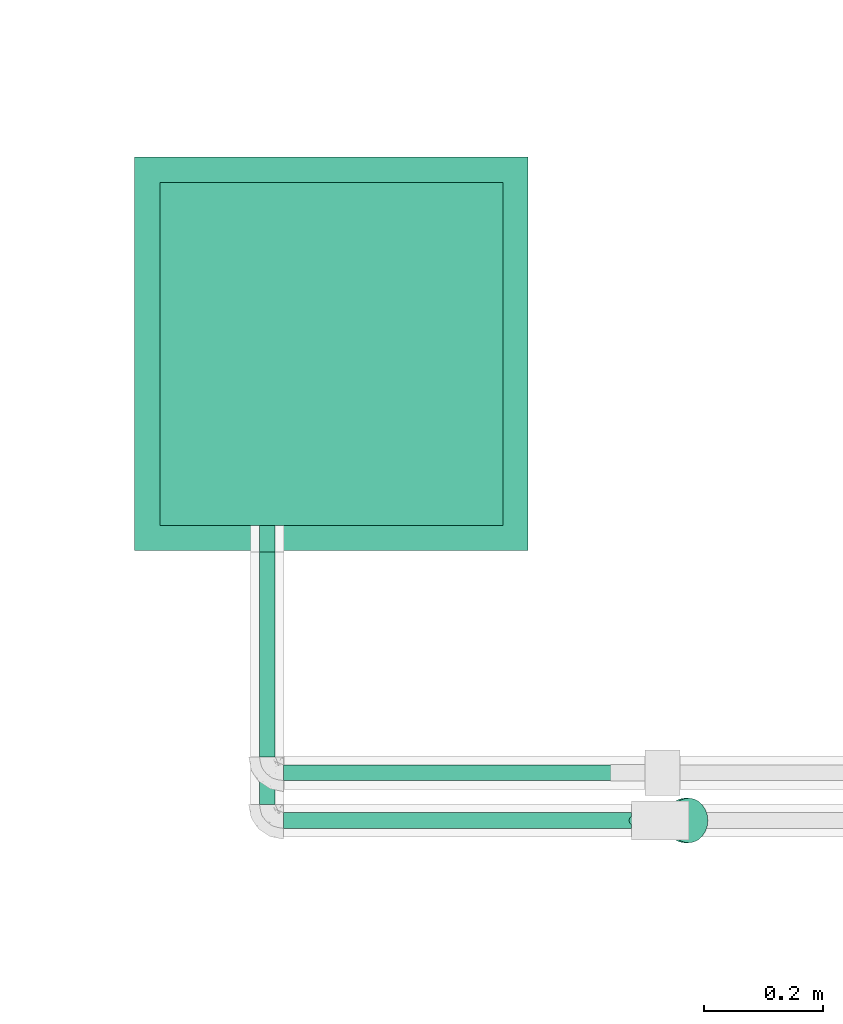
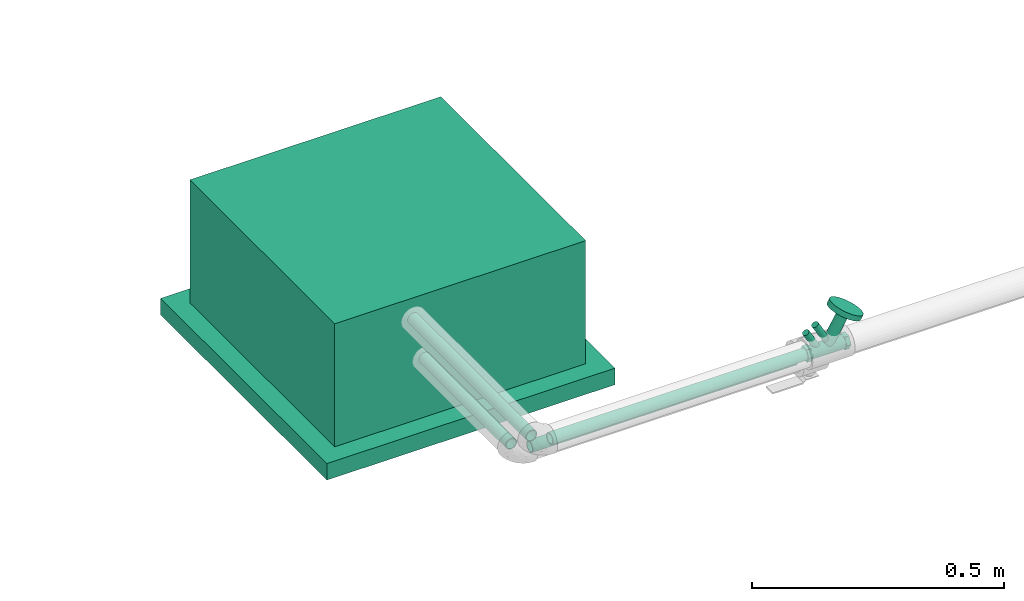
# One storey, part 52 of 108: 4 flow segments, 1 energy conversion device, 1 flow controller.
"""IFC2X3 building model written with IfcOpenShell, lengths in millimetres."""

import ifcopenshell
import ifcopenshell.guid

model = None  # the IFC model being written
_history = None  # IfcOwnerHistory: only IFC2X3 demands one
_inside = {}  # id of a spatial element -> (the spatial element, [elements in it])
_under = {}  # id of a project, library or spatial element -> (it, [spatial elements below it])
_declared = {}  # id of a project -> (the project, [libraries it declares])
_typed = {}  # id of a type object -> (the type object, [elements of that type])
_made_of = {}  # id of a material, layer set ... -> (it, [elements and type objects made of it])


def new_model(schema):
    """Start an empty IFC model of exactly this schema.

    Asked for "IFC4X3", IfcOpenShell would pick the latest addendum, in which some entities
    have other attributes; the version numbers below select the first issue.
    IFC2X3 requires an IfcOwnerHistory on every rooted entity: one is made here for all.
    """
    global model, _history
    if schema == "IFC4X3":
        model = ifcopenshell.file(schema_version=(4, 3, 0, 0))
    else:
        model = ifcopenshell.file(schema=schema)
    _inside.clear()
    _under.clear()
    _declared.clear()
    _typed.clear()
    _made_of.clear()
    _history = None
    if model.schema == "IFC2X3":
        org = make("IfcOrganization", Name="unknown")
        user = make(
            "IfcPersonAndOrganization",
            ThePerson=make("IfcPerson", FamilyName="unknown"),
            TheOrganization=org,
        )
        app = make(
            "IfcApplication",
            ApplicationDeveloper=org,
            Version="unknown",
            ApplicationFullName="unknown",
            ApplicationIdentifier="unknown",
        )
        _history = make(
            "IfcOwnerHistory",
            OwningUser=user,
            OwningApplication=app,
            ChangeAction="ADDED",
            CreationDate=0,
        )
    return model


def make(cls, **values):
    """One entity of the class cls with the attributes given. An attribute that is None is left unset."""
    return model.create_entity(
        cls, **{name: value for name, value in values.items() if value is not None}
    )


def entity(cls, *values):
    """Any entity or typed value of the class cls, its attributes in the order of the schema. None: left unset."""
    e = model.create_entity(cls)
    for i, value in enumerate(values):
        if value is not None:
            e[i] = value
    return e


def rooted(cls, **values):
    """An entity with a GlobalId (a new one), such as an element, a storey or a relation."""
    return make(cls, GlobalId=ifcopenshell.guid.new(), OwnerHistory=_history, **values)


def si_unit(unit_type, name, prefix=None):
    """IfcSIUnit, for example si_unit("LENGTHUNIT", "METRE", prefix="MILLI")."""
    return make("IfcSIUnit", UnitType=unit_type, Prefix=prefix, Name=name)


def converted_unit(unit_type, name, factor, base, dimensions=None, offset=None):
    """IfcConversionBasedUnit, such as the inch: factor (a typed value) times the base unit."""
    return make(
        "IfcConversionBasedUnit"
        if offset is None
        else "IfcConversionBasedUnitWithOffset",
        ConversionOffset=offset,
        Dimensions=None
        if dimensions is None
        else entity("IfcDimensionalExponents", *dimensions),
        UnitType=unit_type,
        Name=name,
        ConversionFactor=make(
            "IfcMeasureWithUnit", ValueComponent=factor, UnitComponent=base
        ),
    )


def derived_unit(unit_type, elements):
    """IfcDerivedUnit: a product of units, each with its exponent."""
    return make(
        "IfcDerivedUnit",
        Elements=[
            make("IfcDerivedUnitElement", Unit=unit, Exponent=power)
            for unit, power in elements
        ],
        UnitType=unit_type,
    )


def assignment(units):
    """IfcUnitAssignment: the units of a project."""
    return None if units is None else make("IfcUnitAssignment", Units=units)


def point(xyz):
    """IfcCartesianPoint."""
    return None if xyz is None else make("IfcCartesianPoint", Coordinates=xyz)


def direction(xyz):
    """IfcDirection."""
    return None if xyz is None else make("IfcDirection", DirectionRatios=xyz)


def frame(location, z_axis=None, x_axis=None):
    """IfcAxis2Placement3D, a coordinate frame: its origin and axes. An axis left out is left unset."""
    return make(
        "IfcAxis2Placement3D",
        Location=point(location),
        Axis=direction(z_axis),
        RefDirection=direction(x_axis),
    )


def frame_2d(location, x_axis=None):
    """IfcAxis2Placement2D, a coordinate frame in the plane: its origin and x axis."""
    return make(
        "IfcAxis2Placement2D", Location=point(location), RefDirection=direction(x_axis)
    )


def origin_with_axes():
    """The frame at (0, 0, 0) with the z axis (0, 0, 1) and the x axis (1, 0, 0) written out."""
    return frame((0.0, 0.0, 0.0), z_axis=(0.0, 0.0, 1.0), x_axis=(1.0, 0.0, 0.0))


def origin_2d_with_axis():
    """The frame at (0, 0) in the plane with the x axis (1, 0) written out."""
    return frame_2d((0.0, 0.0), x_axis=(1.0, 0.0))


def place(relative_to, where):
    """IfcLocalPlacement: puts the frame where relative to a parent placement (None: the world)."""
    return make(
        "IfcLocalPlacement", PlacementRelTo=relative_to, RelativePlacement=where
    )


def context(
    kind, dimensions, precision=None, world=None, true_north=None, identifier=None
):
    """IfcGeometricRepresentationContext, for example the 3D "Model" context."""
    return make(
        "IfcGeometricRepresentationContext",
        ContextIdentifier=identifier,
        ContextType=kind,
        CoordinateSpaceDimension=dimensions,
        Precision=precision,
        WorldCoordinateSystem=world,
        TrueNorth=true_north,
    )


def subcontext(parent, identifier, kind, view, scale=None):
    """IfcGeometricRepresentationSubContext, for example "Body" below "Model"."""
    return make(
        "IfcGeometricRepresentationSubContext",
        ContextIdentifier=identifier,
        ContextType=kind,
        ParentContext=parent,
        TargetScale=scale,
        TargetView=view,
    )


def project(units=None, contexts=None):
    """IfcProject with its units and contexts."""
    return rooted(
        "IfcProject",
        Name="project",
        RepresentationContexts=contexts,
        UnitsInContext=assignment(units),
    )


def spatial(cls, under=None, at=None, **own):
    """A site, building, storey or space (cls), placed at a placement, below another one or the project."""
    s = rooted(cls, ObjectPlacement=at, **own)
    if under is not None:
        _under.setdefault(under.id(), (under, []))[1].append(s)
    return s


def profile(cls, at=None, kind="AREA", **sizes):
    """A parametric profile (cls). Its sizes go by their IFC names, for example OverallWidth=200.0."""
    return make(cls, ProfileType=kind, Position=at, **sizes)


def hollow_circle(**sizes):
    """IfcCircleHollowProfileDef."""
    return profile("IfcCircleHollowProfileDef", **sizes)


def extrude(swept, where, along, depth):
    """IfcExtrudedAreaSolid: the profile swept, set in the frame where, extruded along a direction by depth."""
    return make(
        "IfcExtrudedAreaSolid",
        SweptArea=swept,
        Position=where,
        ExtrudedDirection=direction(along),
        Depth=depth,
    )


def faces_of(points, faces, orient=None, outer=None):
    """IfcFace entities. A face is a list of loops; a loop is a list of indices into points, from 0.

    orient and outer hold one flag for each loop. By default every Orientation is true, the
    first loop of a face is its IfcFaceOuterBound and the others are IfcFaceBound.
    """
    made = []
    for i, loops in enumerate(faces):
        bounds = []
        for j, loop in enumerate(loops):
            is_outer = j == 0 if outer is None else outer[i][j]
            bounds.append(
                make(
                    "IfcFaceOuterBound" if is_outer else "IfcFaceBound",
                    Bound=make("IfcPolyLoop", Polygon=[points[k] for k in loop]),
                    Orientation=True if orient is None else orient[i][j],
                )
            )
        made.append(make("IfcFace", Bounds=bounds))
    return made


def open_shell(faces, orient=None, outer=None):
    """The faces of one IfcOpenShell. surface_model builds it on its shared points."""
    return ("IfcOpenShell", faces, orient, outer)


def surface_model(cls, points, shells):
    """IfcFaceBasedSurfaceModel or IfcShellBasedSurfaceModel (cls): surfaces that need not close."""
    shared = [point(p) for p in points]
    made = [make(c, CfsFaces=faces_of(shared, fs, o, b)) for c, fs, o, b in shells]
    if cls == "IfcFaceBasedSurfaceModel":
        return make(cls, FbsmFaces=made)
    return make(cls, SbsmBoundary=made)


def shape(context_of_items, identifier, shape_type, items):
    """IfcShapeRepresentation: the items that make up one representation, for example the "Body"."""
    return make(
        "IfcShapeRepresentation",
        ContextOfItems=context_of_items,
        RepresentationIdentifier=identifier,
        RepresentationType=shape_type,
        Items=items,
    )


def source(mapping_origin, context_of_items, identifier, shape_type, items):
    """IfcRepresentationMap: a shape defined once, which mapped items show again and again."""
    return make(
        "IfcRepresentationMap",
        MappingOrigin=mapping_origin,
        MappedRepresentation=shape(context_of_items, identifier, shape_type, items),
    )


def transform(
    local_origin,
    x_axis=None,
    y_axis=None,
    z_axis=None,
    scale=None,
    scale2=None,
    scale3=None,
    uniform=True,
):
    """IfcCartesianTransformationOperator3D, or its non-uniform kind. x_axis, y_axis, z_axis: its Axis1, 2, 3."""
    if uniform:
        return make(
            "IfcCartesianTransformationOperator3D",
            Axis1=direction(x_axis),
            Axis2=direction(y_axis),
            LocalOrigin=point(local_origin),
            Scale=scale,
            Axis3=direction(z_axis),
        )
    return make(
        "IfcCartesianTransformationOperator3DnonUniform",
        Axis1=direction(x_axis),
        Axis2=direction(y_axis),
        LocalOrigin=point(local_origin),
        Scale=scale,
        Axis3=direction(z_axis),
        Scale2=scale2,
        Scale3=scale3,
    )


def mapped(mapping_source, mapping_target):
    """IfcMappedItem: shows the shape of a source again, moved by a transform."""
    return make(
        "IfcMappedItem", MappingSource=mapping_source, MappingTarget=mapping_target
    )


def made_of(thing, what):
    """Note that an element or type object is made of a material, layer set ...; save() writes the relation."""
    if what is not None:
        _made_of.setdefault(what.id(), (what, []))[1].append(thing)
    return thing


def type_object(cls, material=None, **own):
    """A type object (cls), such as IfcWallType, which elements share."""
    return made_of(rooted(cls, **own), material)


def element(
    cls,
    number,
    at=None,
    inside=None,
    cuts=None,
    type_object=None,
    material=None,
    context=None,
    identifier="Body",
    shape_type=None,
    held_by="IfcProductDefinitionShape",
    body=None,
    shapes=None,
    **own,
):
    """One element of the class cls, such as IfcWall. Its Tag is "e" and its number.

    at: its placement. inside: the storey or other place that contains it. cuts: it is an
    opening in that element (IfcRelVoidsElement). A single representation is given by context,
    identifier, shape_type and body (its items); several are given by shapes. held_by: the class
    of the entity that holds the representations. save() writes the other relations.
    """
    e = rooted(cls, Tag="e%d" % number, ObjectPlacement=at, **own)
    if body is not None:
        shapes = [shape(context, identifier, shape_type, body)]
    if shapes is not None:
        e.Representation = make(held_by, Representations=shapes)
    if inside is not None:
        _inside.setdefault(inside.id(), (inside, []))[1].append(e)
    if cuts is not None:
        rooted(
            "IfcRelVoidsElement", RelatingBuildingElement=cuts, RelatedOpeningElement=e
        )
    if type_object is not None:
        _typed.setdefault(type_object.id(), (type_object, []))[1].append(e)
    return made_of(e, material)


def aggregate(whole, parts):
    """IfcRelAggregates: a whole, such as a stair, and the parts it consists of."""
    return rooted("IfcRelAggregates", RelatingObject=whole, RelatedObjects=parts)


def save(model, path):
    """Write the relations noted so far, then the file.

    IfcRelAggregates (storeys below a building ...), IfcRelContainedInSpatialStructure (elements
    in a storey), IfcRelDefinesByType, IfcRelAssociatesMaterial and IfcRelDeclares: one each for
    every whole, place, type object, material and project.
    """
    for whole, parts in _under.values():
        aggregate(whole, parts)
    for where, things in _inside.values():
        rooted(
            "IfcRelContainedInSpatialStructure",
            RelatedElements=things,
            RelatingStructure=where,
        )
    for kind, things in _typed.values():
        rooted("IfcRelDefinesByType", RelatedObjects=things, RelatingType=kind)
    for what, things in _made_of.values():
        rooted("IfcRelAssociatesMaterial", RelatedObjects=things, RelatingMaterial=what)
    for by, libraries in _declared.values():
        rooted("IfcRelDeclares", RelatingContext=by, RelatedDefinitions=libraries)
    model.write(path)


model = new_model("IFC2X3")

# Units and contexts
model_context = context("Model", 3, precision=0.01, world=frame((0.0, 4.29681676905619e-09, 0.0)), true_north=direction((4.01073788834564e-13, 1.0)))
plan_context = context("Plan", 3, precision=0.01, world=frame((0.0, 4.29681676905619e-09, 0.0)), true_north=direction((4.01073788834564e-13, 1.0)))
body_context = subcontext(model_context, "Body", "Model", "MODEL_VIEW")
ifc_project = project(units=[converted_unit("PLANEANGLEUNIT", "DEGREE", entity("IfcPositiveLengthMeasure", 0.0174532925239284), si_unit("PLANEANGLEUNIT", "RADIAN"), dimensions=[0, 0, 0, 0, 0, 0, 0]), si_unit("AREAUNIT", "SQUARE_METRE"), si_unit("LENGTHUNIT", "METRE", prefix="MILLI"), si_unit("MASSUNIT", "GRAM", prefix="KILO"), si_unit("POWERUNIT", "WATT"), si_unit("PRESSUREUNIT", "PASCAL", prefix="KILO"), si_unit("FORCEUNIT", "NEWTON", prefix="KILO"), si_unit("ELECTRICVOLTAGEUNIT", "VOLT"), si_unit("ELECTRICCURRENTUNIT", "AMPERE"), si_unit("THERMODYNAMICTEMPERATUREUNIT", "DEGREE_CELSIUS"), si_unit("TIMEUNIT", "SECOND"), si_unit("VOLUMEUNIT", "CUBIC_METRE"), derived_unit("LINEARVELOCITYUNIT", [(si_unit("LENGTHUNIT", "METRE"), 1), (si_unit("TIMEUNIT", "SECOND"), -1)]), derived_unit("VOLUMETRICFLOWRATEUNIT", [(si_unit("VOLUMEUNIT", "CUBIC_METRE"), 1), (si_unit("TIMEUNIT", "SECOND"), -1)]), derived_unit("THERMALTRANSMITTANCEUNIT", [(si_unit("POWERUNIT", "WATT"), 1), (si_unit("THERMODYNAMICTEMPERATUREUNIT", "KELVIN"), -1), (si_unit("AREAUNIT", "SQUARE_METRE"), -1)]), derived_unit("SOUNDPRESSUREUNIT", [(si_unit("PRESSUREUNIT", "PASCAL"), 1)])], contexts=[model_context, plan_context])

# Site, building, storey
site_placement = place(None, frame((0.0, -4.29681676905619e-09, 0.0), z_axis=(0.0, 0.0, 1.0), x_axis=(1.0, 0.0, 0.0)))
site = spatial("IfcSite", under=ifc_project, at=site_placement, CompositionType="ELEMENT")
building_placement = place(site_placement, frame((0.0, 4.29681676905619e-09, 0.0), z_axis=(0.0, 0.0, 1.0), x_axis=(1.0, 0.0, 0.0)))
building = spatial("IfcBuilding", under=site, at=building_placement, Name="mc-building", CompositionType="ELEMENT")
storey_placement = place(building_placement, frame((0.0, 0.0, 210200.0), z_axis=(0.0, 0.0, 1.0), x_axis=(1.0, 0.0, 0.0)))
storey = spatial("IfcBuildingStorey", under=building, at=storey_placement, Name="Nivå F - 0,7 m", CompositionType="ELEMENT", Elevation=210200.0)

# Energy conversion device
coil_type = type_object("IfcCoilType", Name="GCS2.UWW.K01", PredefinedType="WATERHEATINGCOIL")
shared_shape_1 = source(origin_with_axes(), body_context, "Body", "SurfaceModel", [
    surface_model("IfcShellBasedSurfaceModel", [(-329.99999, 329.99999, 0.0), (-329.99999, -329.99999, 0.0), (329.99999, -329.99999, 0.0), (329.99999, 329.99999, 0.0), (329.99999, 329.99999, -40.0), (329.99999, -329.99999, -40.0), (-329.99999, -329.99999, -40.0), (-329.99999, 329.99999, -40.0), (-287.5, 287.5, 25.0), (-287.5, -287.5, 25.0), (287.5, -287.5, 25.0), (287.5, 287.5, 25.0), (287.5, 287.5, 0.0), (287.5, -287.5, 0.0), (-287.5, -287.5, 0.0), (-287.5, 287.5, 0.0), (-287.5, 287.5, 298.0), (-287.5, -287.5, 298.0), (287.5, -287.5, 298.0), (287.5, 287.5, 298.0)], [open_shell([[[0, 1, 2]], [[2, 3, 0]], [[4, 5, 6]], [[6, 7, 4]], [[2, 1, 6]], [[6, 5, 2]], [[3, 2, 5]], [[5, 4, 3]], [[0, 3, 4]], [[4, 7, 0]], [[1, 0, 7]], [[7, 6, 1]], [[8, 9, 10]], [[10, 11, 8]], [[12, 13, 14]], [[14, 15, 12]], [[10, 9, 14]], [[14, 13, 10]], [[11, 10, 13]], [[13, 12, 11]], [[8, 11, 12]], [[12, 15, 8]], [[9, 8, 15]], [[15, 14, 9]], [[16, 17, 18]], [[18, 19, 16]], [[11, 10, 9]], [[9, 8, 11]], [[18, 17, 10]], [[9, 10, 17]], [[19, 18, 11]], [[10, 11, 18]], [[16, 19, 8]], [[11, 8, 19]], [[17, 16, 9]], [[8, 9, 16]]])]),
])
energy_conversion_device_placement = place(storey_placement, frame((337139.68344, 464685.97358, 2700.0), z_axis=(0.0, 0.0, 1.0), x_axis=(0.0, 1.0, 0.0)))
element("IfcEnergyConversionDevice", 1, at=energy_conversion_device_placement, inside=storey, type_object=coil_type, Name="GCS2.UWW.K01", context=body_context, shape_type="MappedRepresentation", body=[
    mapped(shared_shape_1, transform((0.0, 0.0, 0.0), scale=1.0)),
])

# Flow controller
valve_type = type_object("IfcValveType", Name="STAD/F-20", PredefinedType="NOTDEFINED")
shared_shape_2 = source(origin_with_axes(), body_context, "Body", "SurfaceModel", [
    surface_model("IfcShellBasedSurfaceModel", [(5.41266, -10.82532, 3.125), (7.65466, -8.83883, 4.41942), (5.32606, -10.65211, 3.075), (2.75697, -11.88089, 1.59174), (0.0, -12.3, 0.0), (2.8018, -12.07407, 1.61762), (0.0, -12.5, 0.0), (7.53218, -8.69741, 4.34871), (10.45645, -3.23524, 6.03704), (10.65211, 0.0, 6.15), (10.28915, -3.18347, 5.94044), (10.82532, 0.0, 6.25), (9.375, -6.25, 5.41266), (9.225, -6.15, 5.32606), (-2.75697, -11.88089, -1.59174), (-2.8018, -12.07407, -1.61762), (-5.32606, -10.65211, -3.075), (-7.65466, -8.83883, -4.41942), (-5.41266, -10.82532, -3.125), (-7.53218, -8.69741, -4.34871), (-9.225, -6.15, -5.32606), (-9.375, -6.25, -5.41266), (-10.28915, -3.18347, -5.94044), (-10.45645, -3.23524, -6.03704), (-10.65211, 0.0, -6.15), (-10.82532, 0.0, -6.25), (10.45645, 3.23524, 6.03704), (10.28915, 3.18347, 5.94044), (9.225, 6.15, 5.32606), (9.375, 6.25, 5.41266), (7.53218, 8.69741, 4.34871), (7.65466, 8.83883, 4.41942), (5.41266, 10.82532, 3.125), (5.32606, 10.65211, 3.075), (2.75697, 11.88089, 1.59174), (2.8018, 12.07407, 1.61762), (0.0, 12.3, 0.0), (0.0, 12.5, 0.0), (-9.375, 6.25, -5.41266), (-9.225, 6.15, -5.32606), (-7.65466, 8.83883, -4.41942), (-7.53218, 8.69741, -4.34871), (-10.45645, 3.23524, -6.03704), (-10.28915, 3.18347, -5.94044), (-2.75697, 11.88089, -1.59174), (-2.8018, 12.07407, -1.61762), (-5.32606, 10.65211, -3.075), (-5.41266, 10.82532, -3.125), (78.86936, 9.70571, -64.16131), (70.46396, 26.5165, -69.01416), (75.625, 18.75, -66.03444), (24.53603, 26.5165, -95.53067), (16.13063, 9.70571, -100.38353), (19.37499, 18.75, -98.51039), (31.26202, 32.47595, -91.64741), (63.73797, -32.47595, -72.89742), (75.625, -18.75, -66.03444), (70.46396, -26.5165, -69.01416), (55.90539, -36.22222, -77.41956), (47.49999, -37.5, -82.27241), (69.625, -18.75, -55.64213), (57.73797, -32.47595, -62.50511), (64.46396, -26.5165, -58.62186), (10.13063, -9.70571, -89.99122), (10.13063, 9.70571, -89.99122), (9.02404, 0.0, -90.63011), (72.86936, -9.70571, -53.769), (64.46396, 26.5165, -58.62186), (72.86936, 9.70571, -53.769), (69.625, 18.75, -55.64213), (57.73797, 32.47595, -62.50511), (49.90539, 36.22222, -67.02725), (25.26202, 32.47595, -81.25511), (41.5, 37.5, -71.88011), (33.0946, 36.22222, -76.73297), (13.375, 18.75, -88.11809), (18.53603, 26.5165, -85.13836), (39.0946, 36.22222, -87.12527), (15.02404, 0.0, -101.02241), (47.49999, 37.5, -82.27241), (55.90539, 36.22222, -77.41956), (63.73797, 32.47595, -72.89742), (79.97595, 0.0, -63.52242), (73.97595, 0.0, -53.13011), (78.86936, -9.70571, -64.16131), (49.90539, -36.22222, -67.02725), (41.5, -37.5, -71.88011), (33.0946, -36.22222, -76.73297), (39.0946, -36.22222, -87.12527), (25.26202, -32.47595, -81.25511), (31.26202, -32.47595, -91.64741), (19.37499, -18.75, -98.51039), (18.53603, -26.5165, -85.13836), (13.375, -18.75, -88.11809), (24.53603, -26.5165, -95.53067), (16.13063, -9.70571, -100.38353), (46.91266, 10.82532, -68.75511), (49.15465, 8.83883, -67.46069), (46.82605, 10.65211, -68.80511), (44.25696, 11.88089, -70.28837), (41.5, 12.3, -71.88011), (44.30179, 12.07407, -70.26249), (41.5, 12.5, -71.88011), (49.03218, 8.69741, -67.5314), (51.95645, 3.23524, -65.84307), (52.15211, 0.0, -65.73011), (51.78915, 3.18347, -65.93967), (52.32531, 0.0, -65.63011), (50.875, 6.25, -66.46745), (50.725, 6.15, -66.55405), (38.74302, 11.88089, -73.47185), (38.6982, 12.07407, -73.49773), (36.17394, 10.65211, -74.95511), (33.84534, 8.83883, -76.29953), (36.08734, 10.82532, -75.00511), (33.96781, 8.69741, -76.22881), (32.275, 6.15, -77.20617), (32.125, 6.25, -77.29277), (31.21084, 3.18347, -77.82055), (31.04354, 3.23524, -77.91715), (30.84788, 0.0, -78.03011), (30.67468, 0.0, -78.13011), (51.95645, -3.23524, -65.84307), (51.78915, -3.18347, -65.93967), (50.725, -6.15, -66.55405), (50.875, -6.25, -66.46745), (49.03218, -8.69741, -67.5314), (49.15465, -8.83883, -67.46069), (46.91266, -10.82532, -68.75511), (46.82605, -10.65211, -68.80511), (44.25696, -11.88089, -70.28837), (44.30179, -12.07407, -70.26249), (41.5, -12.3, -71.88011), (41.5, -12.5, -71.88011), (32.125, -6.25, -77.29277), (32.275, -6.15, -77.20617), (33.84534, -8.83883, -76.29953), (33.96781, -8.69741, -76.22881), (31.04354, -3.23524, -77.91715), (31.21084, -3.18347, -77.82055), (38.74302, -11.88089, -73.47185), (38.6982, -12.07407, -73.49773), (36.17394, -10.65211, -74.95511), (36.08734, -10.82532, -75.00511), (48.5, 8.91, -15.43257), (48.5, 17.82, 0.0), (48.5, -8.91, -15.43257), (48.5, 8.91, 15.43257), (48.5, -8.91, 15.43257), (48.5, -17.82, 0.0), (38.5, -17.82, 0.0), (38.5, -8.91, 15.43257), (38.5, -8.91, -15.43257), (38.5, 8.91, 15.43257), (38.5, 17.82, 0.0), (38.5, 8.91, -15.43257), (-48.5, -8.91, -15.43257), (-48.5, -17.82, 0.0), (-48.5, 8.91, -15.43257), (-48.5, -8.91, 15.43257), (-48.5, 8.91, 15.43257), (-48.5, 17.82, 0.0), (-38.5, 17.82, 0.0), (-38.5, 8.91, 15.43257), (-38.5, 8.91, -15.43257), (-38.5, -8.91, 15.43257), (-38.5, -17.82, 0.0), (-38.5, -8.91, -15.43257), (38.5, 7.425, -12.86048), (38.5, -7.425, -12.86048), (38.5, 3.84346, -14.344), (38.5, 10.50054, -10.50054), (38.5, -14.344, 3.84346), (38.5, -3.84346, 14.344), (38.5, 12.86048, -7.425), (38.5, 14.344, -3.84346), (38.5, -10.50054, 10.50054), (38.5, 0.0, -14.85), (38.5, -3.84346, -14.344), (38.5, -10.50054, -10.50054), (38.5, -14.344, -3.84346), (38.5, -12.86048, -7.425), (38.5, 14.85, 0.0), (38.5, 14.344, 3.84346), (38.5, 12.86048, 7.425), (38.5, 10.50054, 10.50054), (38.5, 7.425, 12.86048), (38.5, 3.84346, 14.344), (38.5, 0.0, 14.85), (38.5, -12.86048, 7.425), (38.5, -14.85, 0.0), (38.5, -7.425, 12.86048), (-38.5, 0.0, 14.85), (-38.5, 3.84346, 14.344), (-38.5, 7.425, 12.86048), (-38.5, -3.84346, 14.344), (-38.5, 10.50054, 10.50054), (-38.5, 12.86048, 7.425), (-38.5, 14.344, 3.84346), (-38.5, -10.50054, 10.50054), (-38.5, -7.425, 12.86048), (-38.5, -14.344, 3.84346), (-38.5, -12.86048, 7.425), (-38.5, -14.344, -3.84346), (-38.5, -14.85, 0.0), (-38.5, 10.50054, -10.50054), (-38.5, 14.344, -3.84346), (-38.5, 12.86048, -7.425), (-38.5, 7.425, -12.86048), (-38.5, -7.425, -12.86048), (-38.5, 0.0, -14.85), (-38.5, 3.84346, -14.344), (-38.5, -10.50054, -10.50054), (-38.5, -12.86048, -7.425), (-38.5, -3.84346, -14.344), (-38.5, 14.85, 0.0), (-21.28648, 6.49519, -65.18525), (-29.12686, 5.3033, -60.6586), (-22.85299, 7.24444, -64.28082), (-18.90907, 3.75, -66.55784), (-19.94128, 5.3033, -65.9619), (-18.2602, 1.94114, -66.93247), (-18.03888, 0.0, -67.06025), (-31.02926, 0.0, -59.56025), (-26.21515, 7.24444, -62.33968), (-27.78167, 6.49519, -61.43524), (-24.53407, 7.5, -63.31025), (-30.15907, 3.75, -60.06265), (-30.80794, 1.94114, -59.68803), (-18.90907, -3.75, -66.55784), (-21.28648, -6.49519, -65.18525), (-19.94128, -5.3033, -65.9619), (-22.85299, -7.24444, -64.28082), (-24.53407, -7.5, -63.31025), (-29.12686, -5.3033, -60.6586), (-30.15907, -3.75, -60.06265), (-30.80794, -1.94114, -59.68803), (-26.21515, -7.24444, -62.33968), (-27.78167, -6.49519, -61.43524), (-18.2602, -1.94114, -66.93247), (11.647, -7.24444, -4.52506), (5.37313, -5.3033, -0.90284), (9.96592, -7.5, -3.55449), (14.55872, -5.3033, -6.20614), (13.21352, -6.49519, -5.42949), (16.2398, 1.94114, -7.17671), (15.59092, -3.75, -6.80209), (16.46111, 0.0, -7.30449), (8.28485, -7.24444, -2.58392), (6.71833, -6.49519, -1.67949), (3.69205, -1.94114, 0.06773), (4.34092, -3.75, -0.3069), (3.69205, 1.94114, 0.06773), (3.47073, 0.0, 0.19551), (16.2398, -1.94114, -7.17671), (11.647, 7.24444, -4.52506), (15.59092, 3.75, -6.80209), (14.55872, 5.3033, -6.20614), (13.21352, 6.49519, -5.42949), (6.71833, 6.49519, -1.67949), (5.37313, 5.3033, -0.90284), (4.34092, 3.75, -0.3069), (9.96592, 7.5, -3.55449), (8.28485, 7.24444, -2.58392), (-45.53519, 7.5, -51.18525), (-43.85411, 7.24444, -52.15582), (-42.28759, 6.49519, -53.06025), (-40.9424, 5.3033, -53.8369), (-51.80906, 1.94114, -47.56303), (-39.26132, 1.94114, -54.80747), (-39.91019, 3.75, -54.43284), (-51.80906, -1.94114, -47.56303), (-47.21627, 7.24444, -50.21468), (-50.12798, 5.3033, -48.5336), (-48.78278, 6.49519, -49.31025), (-51.16019, 3.75, -47.93765), (-39.04, 0.0, -54.93525), (-39.26132, -1.94114, -54.80747), (-39.91019, -3.75, -54.43284), (-40.9424, -5.3033, -53.8369), (-42.28759, -6.49519, -53.06025), (-43.85411, -7.24444, -52.15582), (-45.53519, -7.5, -51.18525), (-50.12798, -5.3033, -48.5336), (-51.16019, -3.75, -47.93765), (-52.03038, 0.0, -47.43525), (-47.21627, -7.24444, -50.21468), (-48.78278, -6.49519, -49.31025), (-19.35411, -7.24444, -9.72057), (-25.62798, -5.3033, -6.09835), (-21.03519, -7.5, -8.75), (-16.4424, -5.3033, -11.40165), (-17.7876, -6.49519, -10.625), (-15.41019, -3.75, -11.9976), (-14.76132, -1.94114, -12.37222), (-24.28279, -6.49519, -6.875), (-22.71627, -7.24444, -7.77943), (-26.66019, -3.75, -5.50241), (-27.30906, -1.94114, -5.12778), (-27.30906, 1.94114, -5.12778), (-27.53038, 0.0, -5.0), (-14.76132, 1.94114, -12.37222), (-19.35411, 7.24444, -9.72057), (-16.4424, 5.3033, -11.40165), (-15.41019, 3.75, -11.9976), (-17.7876, 6.49519, -10.625), (-25.62798, 5.3033, -6.09835), (-26.66019, 3.75, -5.50241), (-24.28279, 6.49519, -6.875), (-21.03519, 7.5, -8.75), (-22.71627, 7.24444, -7.77943), (-14.54, 0.0, -12.5)], [open_shell([[[0, 1, 2]], [[0, 2, 3]], [[4, 5, 3]], [[5, 4, 6]], [[3, 5, 0]], [[2, 1, 7]], [[8, 9, 10]], [[9, 8, 11]], [[8, 10, 12]], [[7, 12, 13]], [[12, 7, 1]], [[13, 12, 10]], [[6, 14, 15]], [[15, 14, 16]], [[17, 18, 19]], [[16, 18, 15]], [[16, 19, 18]], [[6, 4, 14]], [[20, 21, 17]], [[21, 20, 22]], [[20, 17, 19]], [[23, 22, 24]], [[22, 23, 21]], [[23, 24, 25]], [[11, 26, 27]], [[27, 26, 28]], [[28, 29, 30]], [[29, 28, 26]], [[30, 29, 31]], [[31, 32, 33]], [[33, 32, 34]], [[34, 35, 36]], [[35, 34, 32]], [[36, 35, 37]], [[33, 30, 31]], [[38, 39, 40]], [[40, 39, 41]], [[39, 38, 42]], [[25, 43, 42]], [[42, 43, 39]], [[25, 24, 43]], [[44, 37, 45]], [[44, 45, 46]], [[41, 47, 40]], [[41, 46, 47]], [[47, 46, 45]], [[36, 37, 44]], [[27, 9, 11]], [[48, 49, 50]], [[51, 52, 53]], [[52, 51, 54]], [[55, 56, 57]], [[55, 58, 59]], [[60, 61, 62]], [[63, 64, 65]], [[63, 66, 67]], [[66, 68, 67]], [[67, 68, 69]], [[67, 70, 71]], [[72, 73, 74]], [[64, 52, 65]], [[75, 53, 64]], [[54, 76, 72]], [[75, 76, 51]], [[77, 72, 74]], [[64, 53, 52]], [[52, 78, 65]], [[77, 54, 72]], [[51, 76, 54]], [[51, 53, 75]], [[79, 77, 74]], [[74, 73, 79]], [[71, 80, 73]], [[70, 81, 71]], [[50, 67, 69]], [[70, 67, 49]], [[48, 69, 68]], [[70, 49, 81]], [[81, 80, 71]], [[82, 48, 68]], [[50, 69, 48]], [[50, 49, 67]], [[83, 82, 68]], [[73, 80, 79]], [[66, 84, 83]], [[60, 56, 66]], [[55, 62, 61]], [[60, 62, 57]], [[58, 61, 85]], [[66, 56, 84]], [[84, 82, 83]], [[58, 55, 61]], [[57, 62, 55]], [[57, 56, 60]], [[59, 58, 85]], [[85, 86, 59]], [[87, 88, 86]], [[89, 90, 87]], [[91, 92, 93]], [[89, 92, 94]], [[95, 93, 63]], [[89, 94, 90]], [[90, 88, 87]], [[78, 95, 63]], [[91, 93, 95]], [[91, 94, 92]], [[65, 78, 63]], [[86, 88, 59]], [[96, 97, 98]], [[96, 98, 99]], [[100, 101, 99]], [[101, 100, 102]], [[99, 101, 96]], [[98, 97, 103]], [[104, 105, 106]], [[105, 104, 107]], [[104, 106, 108]], [[103, 108, 109]], [[108, 103, 97]], [[109, 108, 106]], [[102, 110, 111]], [[111, 110, 112]], [[113, 114, 115]], [[112, 114, 111]], [[112, 115, 114]], [[102, 100, 110]], [[116, 117, 113]], [[117, 116, 118]], [[116, 113, 115]], [[119, 118, 120]], [[118, 119, 117]], [[119, 120, 121]], [[107, 122, 123]], [[123, 122, 124]], [[124, 125, 126]], [[125, 124, 122]], [[126, 125, 127]], [[127, 128, 129]], [[129, 128, 130]], [[130, 131, 132]], [[131, 130, 128]], [[132, 131, 133]], [[129, 126, 127]], [[134, 135, 136]], [[136, 135, 137]], [[135, 134, 138]], [[121, 139, 138]], [[138, 139, 135]], [[121, 120, 139]], [[140, 133, 141]], [[140, 141, 142]], [[137, 143, 136]], [[137, 142, 143]], [[143, 142, 141]], [[132, 133, 140]], [[123, 105, 107]], [[42, 119, 25]], [[38, 117, 42]], [[114, 40, 47]], [[38, 40, 113]], [[111, 47, 45]], [[42, 117, 119]], [[119, 121, 25]], [[111, 114, 47]], [[113, 40, 114]], [[113, 117, 38]], [[102, 111, 45]], [[45, 37, 102]], [[35, 101, 37]], [[32, 96, 35]], [[108, 31, 29]], [[32, 31, 97]], [[104, 29, 26]], [[32, 97, 96]], [[96, 101, 35]], [[107, 104, 26]], [[108, 29, 104]], [[108, 97, 31]], [[11, 107, 26]], [[37, 101, 102]], [[8, 122, 11]], [[12, 125, 8]], [[128, 1, 0]], [[12, 1, 127]], [[131, 0, 5]], [[11, 122, 107]], [[8, 125, 122]], [[1, 128, 127]], [[12, 127, 125]], [[0, 131, 128]], [[5, 133, 131]], [[5, 6, 133]], [[15, 141, 6]], [[18, 143, 15]], [[134, 17, 21]], [[18, 17, 136]], [[134, 21, 23]], [[141, 15, 143]], [[143, 18, 136]], [[25, 121, 138]], [[134, 23, 138]], [[134, 136, 17]], [[23, 25, 138]], [[6, 141, 133]], [[24, 118, 43]], [[43, 116, 39]], [[46, 41, 112]], [[115, 41, 39]], [[44, 46, 110]], [[120, 118, 24]], [[118, 116, 43]], [[44, 110, 100]], [[115, 39, 116]], [[112, 41, 115]], [[112, 110, 46]], [[100, 36, 44]], [[30, 33, 98]], [[27, 28, 109]], [[103, 28, 30]], [[9, 27, 106]], [[98, 34, 99]], [[34, 100, 99]], [[98, 33, 34]], [[103, 30, 98]], [[109, 28, 103]], [[27, 109, 106]], [[106, 105, 9]], [[36, 100, 34]], [[9, 123, 10]], [[10, 124, 13]], [[2, 7, 129]], [[126, 7, 13]], [[3, 2, 130]], [[105, 123, 9]], [[123, 124, 10]], [[130, 132, 4]], [[126, 13, 124]], [[2, 129, 130]], [[126, 129, 7]], [[4, 3, 130]], [[16, 14, 142]], [[16, 142, 19]], [[22, 20, 135]], [[137, 20, 19]], [[24, 22, 139]], [[4, 140, 14]], [[140, 142, 14]], [[132, 140, 4]], [[142, 137, 19]], [[135, 20, 137]], [[139, 22, 135]], [[139, 120, 24]], [[144, 145, 146]], [[146, 145, 147]], [[146, 148, 149]], [[148, 146, 147]], [[150, 151, 152]], [[152, 151, 153]], [[154, 155, 152]], [[154, 152, 153]], [[148, 147, 153]], [[153, 151, 148]], [[149, 148, 151]], [[151, 150, 149]], [[146, 149, 150]], [[150, 152, 146]], [[144, 146, 152]], [[152, 155, 144]], [[145, 144, 155]], [[155, 154, 145]], [[147, 145, 154]], [[154, 153, 147]], [[156, 157, 158]], [[158, 157, 159]], [[158, 160, 161]], [[160, 158, 159]], [[162, 163, 164]], [[164, 163, 165]], [[166, 167, 164]], [[166, 164, 165]], [[160, 159, 165]], [[165, 163, 160]], [[161, 160, 163]], [[163, 162, 161]], [[158, 161, 162]], [[162, 164, 158]], [[156, 158, 164]], [[164, 167, 156]], [[157, 156, 167]], [[167, 166, 157]], [[159, 157, 166]], [[166, 165, 159]], [[80, 81, 49]], [[79, 80, 49]], [[52, 49, 48]], [[84, 52, 48]], [[77, 52, 54]], [[77, 79, 49]], [[49, 52, 77]], [[48, 82, 84]], [[56, 78, 84]], [[55, 59, 56]], [[94, 56, 59]], [[95, 94, 91]], [[94, 95, 78]], [[59, 90, 94]], [[94, 78, 56]], [[88, 90, 59]], [[84, 78, 52]], [[85, 92, 86]], [[66, 85, 61]], [[60, 66, 61]], [[92, 85, 66]], [[87, 92, 89]], [[87, 86, 92]], [[92, 63, 93]], [[66, 63, 92]], [[72, 63, 67]], [[73, 67, 71]], [[75, 72, 76]], [[64, 63, 75]], [[75, 63, 72]], [[73, 72, 67]], [[68, 66, 83]], [[168, 169, 170]], [[171, 172, 168]], [[173, 174, 175]], [[176, 171, 174]], [[172, 169, 168]], [[177, 169, 178]], [[177, 170, 169]], [[179, 180, 181]], [[180, 179, 169]], [[169, 172, 180]], [[175, 182, 183]], [[183, 184, 185]], [[183, 185, 186]], [[186, 187, 188]], [[183, 186, 173]], [[173, 186, 188]], [[172, 176, 189]], [[190, 180, 172]], [[176, 173, 191]], [[172, 171, 176]], [[176, 174, 173]], [[183, 173, 175]], [[192, 193, 194]], [[195, 192, 194]], [[196, 197, 198]], [[195, 194, 196]], [[195, 196, 198]], [[195, 199, 200]], [[199, 195, 201]], [[199, 201, 202]], [[195, 198, 201]], [[201, 203, 204]], [[201, 198, 205]], [[206, 207, 198]], [[207, 205, 198]], [[208, 209, 201]], [[201, 205, 208]], [[210, 208, 211]], [[203, 212, 213]], [[212, 203, 209]], [[209, 210, 214]], [[203, 201, 209]], [[208, 210, 209]], [[198, 215, 206]], [[180, 203, 213]], [[212, 181, 213]], [[169, 209, 214]], [[212, 209, 179]], [[178, 214, 210]], [[203, 190, 204]], [[203, 180, 190]], [[213, 181, 180]], [[212, 179, 181]], [[169, 179, 209]], [[214, 178, 169]], [[210, 177, 178]], [[170, 211, 208]], [[205, 168, 208]], [[174, 207, 206]], [[205, 207, 171]], [[175, 206, 215]], [[211, 170, 177]], [[208, 168, 170]], [[205, 171, 168]], [[207, 174, 171]], [[175, 174, 206]], [[215, 182, 175]], [[211, 177, 210]], [[215, 198, 183]], [[186, 194, 193]], [[194, 185, 196]], [[187, 193, 192]], [[215, 183, 182]], [[183, 198, 197]], [[183, 197, 184]], [[197, 196, 184]], [[184, 196, 185]], [[185, 194, 186]], [[193, 187, 186]], [[192, 188, 187]], [[173, 195, 200]], [[199, 191, 200]], [[189, 202, 201]], [[199, 202, 176]], [[172, 201, 204]], [[195, 173, 188]], [[200, 191, 173]], [[199, 176, 191]], [[202, 189, 176]], [[172, 189, 201]], [[204, 190, 172]], [[195, 188, 192]], [[216, 217, 218]], [[219, 216, 220]], [[219, 221, 222]], [[219, 222, 216]], [[223, 217, 216]], [[224, 217, 225]], [[224, 226, 218]], [[227, 223, 228]], [[224, 218, 217]], [[227, 217, 223]], [[223, 216, 222]], [[222, 229, 230]], [[230, 229, 231]], [[230, 232, 233]], [[222, 230, 234]], [[234, 230, 233]], [[223, 235, 236]], [[235, 223, 234]], [[234, 237, 238]], [[223, 222, 234]], [[233, 237, 234]], [[222, 239, 229]], [[240, 241, 242]], [[243, 240, 244]], [[241, 243, 245]], [[243, 241, 240]], [[243, 246, 247]], [[248, 241, 249]], [[248, 242, 241]], [[241, 250, 251]], [[241, 252, 250]], [[250, 252, 253]], [[246, 254, 247]], [[252, 241, 245]], [[255, 245, 256]], [[257, 258, 255]], [[257, 255, 256]], [[259, 245, 255]], [[252, 260, 261]], [[260, 252, 259]], [[259, 262, 263]], [[259, 252, 245]], [[255, 262, 259]], [[245, 243, 247]], [[252, 228, 253]], [[261, 227, 252]], [[225, 260, 259]], [[261, 260, 217]], [[224, 259, 263]], [[252, 227, 228]], [[228, 223, 253]], [[224, 225, 259]], [[217, 260, 225]], [[217, 227, 261]], [[226, 224, 263]], [[263, 262, 226]], [[255, 218, 262]], [[258, 216, 255]], [[219, 257, 256]], [[258, 257, 220]], [[221, 256, 245]], [[258, 220, 216]], [[216, 218, 255]], [[222, 221, 245]], [[219, 256, 221]], [[219, 220, 257]], [[247, 222, 245]], [[262, 218, 226]], [[254, 239, 247]], [[246, 229, 254]], [[230, 243, 244]], [[246, 243, 231]], [[232, 244, 240]], [[247, 239, 222]], [[254, 229, 239]], [[243, 230, 231]], [[246, 231, 229]], [[244, 232, 230]], [[240, 233, 232]], [[240, 242, 233]], [[248, 237, 242]], [[249, 238, 248]], [[235, 241, 251]], [[249, 241, 234]], [[236, 251, 250]], [[237, 248, 238]], [[238, 249, 234]], [[253, 223, 236]], [[235, 251, 236]], [[235, 234, 241]], [[250, 253, 236]], [[242, 237, 233]], [[264, 265, 266]], [[267, 264, 266]], [[268, 267, 269]], [[269, 267, 270]], [[271, 268, 269]], [[272, 273, 274]], [[273, 272, 264]], [[273, 268, 275]], [[268, 273, 264]], [[264, 267, 268]], [[269, 276, 277]], [[277, 278, 279]], [[280, 269, 279]], [[269, 281, 271]], [[269, 280, 281]], [[271, 281, 282]], [[271, 283, 284]], [[285, 268, 271]], [[283, 286, 287]], [[286, 283, 271]], [[282, 286, 271]], [[269, 277, 279]], [[288, 289, 290]], [[291, 288, 292]], [[291, 293, 294]], [[291, 294, 288]], [[289, 288, 294]], [[290, 295, 296]], [[290, 289, 295]], [[294, 297, 289]], [[298, 297, 294]], [[298, 299, 300]], [[298, 294, 301]], [[298, 301, 302]], [[303, 301, 304]], [[305, 302, 301]], [[305, 301, 303]], [[298, 302, 299]], [[299, 306, 307]], [[306, 299, 308]], [[308, 309, 310]], [[308, 299, 302]], [[302, 309, 308]], [[301, 294, 311]], [[299, 268, 300]], [[307, 275, 299]], [[274, 306, 308]], [[307, 306, 273]], [[272, 308, 310]], [[299, 275, 268]], [[268, 285, 300]], [[272, 274, 308]], [[273, 306, 274]], [[273, 275, 307]], [[264, 272, 310]], [[310, 309, 264]], [[302, 265, 309]], [[305, 266, 302]], [[270, 303, 304]], [[305, 303, 267]], [[269, 304, 301]], [[305, 267, 266]], [[266, 265, 302]], [[276, 269, 301]], [[270, 304, 269]], [[270, 267, 303]], [[311, 276, 301]], [[309, 265, 264]], [[294, 277, 311]], [[293, 278, 294]], [[280, 291, 292]], [[293, 291, 279]], [[281, 292, 288]], [[294, 278, 277]], [[277, 276, 311]], [[281, 280, 292]], [[279, 291, 280]], [[279, 278, 293]], [[282, 281, 288]], [[288, 290, 282]], [[296, 286, 290]], [[295, 287, 296]], [[284, 289, 297]], [[295, 289, 283]], [[271, 297, 298]], [[295, 283, 287]], [[287, 286, 296]], [[285, 271, 298]], [[284, 297, 271]], [[284, 283, 289]], [[300, 285, 298]], [[290, 286, 282]]])]),
])
flow_controller_placement = place(storey_placement, frame((337691.06154, 463903.47358, 2948.0), z_axis=(0.0, 0.0, -1.0), x_axis=(1.0, 0.0, 0.0)))
element("IfcFlowController", 2, at=flow_controller_placement, inside=storey, type_object=valve_type, Name="STAD/F-20", context=body_context, shape_type="MappedRepresentation", body=[
    mapped(shared_shape_2, transform((0.0, 0.0, 0.0), scale=1.0)),
])

# Flow segments
pipe_segment_type = type_object("IfcPipeSegmentType", Name="Stålrør normaltykke", PredefinedType="RIGIDSEGMENT")
shared_shape_3 = source(origin_with_axes(), body_context, "Body", "SweptSolid", [
    extrude(hollow_circle(Radius=13.3, WallThickness=2.0, at=origin_2d_with_axis()), frame((0.0, 0.0, 0.0), z_axis=(1.0, 0.0, 0.0), x_axis=(0.0, 1.0, 0.0)), (0.0, 0.0, 1.0), 343.2),
])
flow_segment_1_placement = place(storey_placement, frame((337032.18344, 464010.27358, 2880.0), z_axis=(0.0, 0.0, 1.0), x_axis=(0.0, 1.0, 0.0)))
element("IfcFlowSegment", 3, at=flow_segment_1_placement, inside=storey, type_object=pipe_segment_type, Name="Stålrør normaltykke", context=body_context, shape_type="MappedRepresentation", body=[
    mapped(shared_shape_3, transform((0.0, 0.0, 0.0), scale=1.0)),
])
shared_shape_4 = source(origin_with_axes(), body_context, "Body", "SweptSolid", [
    extrude(hollow_circle(Radius=13.3, WallThickness=2.0, at=origin_2d_with_axis()), frame((0.0, 0.0, 0.0), z_axis=(1.0, 0.0, 0.0), x_axis=(0.0, 1.0, 0.0)), (0.0, 0.0, 1.0), 468.2),
])
flow_segment_2_placement = place(storey_placement, frame((337032.18344, 464398.47358, 2948.0), z_axis=(0.0, 0.0, 1.0), x_axis=(0.0, -1.0, 0.0)))
element("IfcFlowSegment", 4, at=flow_segment_2_placement, inside=storey, type_object=pipe_segment_type, Name="Stålrør normaltykke", context=body_context, shape_type="MappedRepresentation", body=[
    mapped(shared_shape_4, transform((0.0, 0.0, 0.0), scale=1.0)),
])
shared_shape_5 = source(origin_with_axes(), body_context, "Body", "SweptSolid", [
    extrude(hollow_circle(Radius=13.3, WallThickness=2.0, at=origin_2d_with_axis()), frame((0.0, 0.0, 0.0), z_axis=(1.0, 0.0, 0.0), x_axis=(0.0, 1.0, 0.0)), (0.0, 0.0, 1.0), 606.9),
])
flow_segment_3_placement = place(storey_placement, frame((337058.98344, 463983.47358, 2880.0), z_axis=(0.0, 0.0, 1.0), x_axis=(1.0, 0.0, 0.0)))
element("IfcFlowSegment", 5, at=flow_segment_3_placement, inside=storey, type_object=pipe_segment_type, Name="Stålrør normaltykke", context=body_context, shape_type="MappedRepresentation", body=[
    mapped(shared_shape_5, transform((0.0, 0.0, 0.0), scale=1.0)),
])
shared_shape_6 = source(origin_with_axes(), body_context, "Body", "SweptSolid", [
    extrude(hollow_circle(Radius=13.3, WallThickness=2.0, at=origin_2d_with_axis()), frame((0.0, 0.0, 0.0), z_axis=(1.0, 0.0, 0.0), x_axis=(0.0, 1.0, 0.0)), (0.0, 0.0, 1.0), 583.6),
])
flow_segment_4_placement = place(storey_placement, frame((337058.98344, 463903.47358, 2948.0), z_axis=(0.0, 0.0, 1.0), x_axis=(1.0, 0.0, 0.0)))
element("IfcFlowSegment", 6, at=flow_segment_4_placement, inside=storey, type_object=pipe_segment_type, Name="Stålrør normaltykke", context=body_context, shape_type="MappedRepresentation", body=[
    mapped(shared_shape_6, transform((0.0, 0.0, 0.0), scale=1.0)),
])

save(model, "model.ifc")
